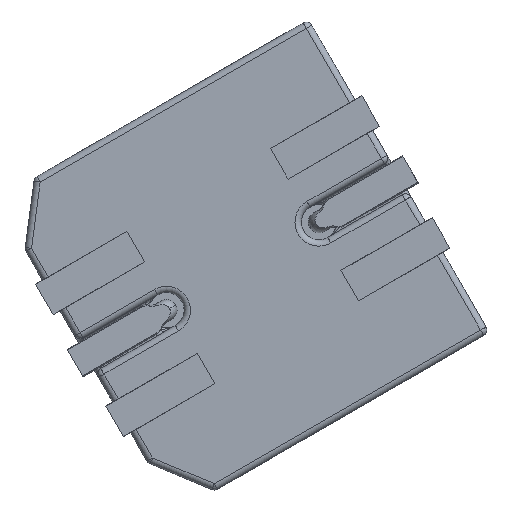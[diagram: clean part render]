
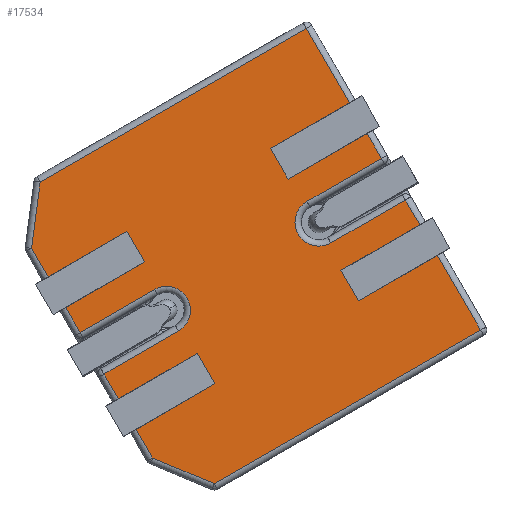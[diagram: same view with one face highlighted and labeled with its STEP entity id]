
A CAD part, left-side view. The second image highlights one B-rep face of the part: STEP entity #17534.
In plain terms, the highlighted planar face has unit normal (-1, 0, 0) as drawn and (0, -1, 0) by its records, which use the part's own axes.
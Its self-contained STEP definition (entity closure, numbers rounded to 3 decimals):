
#14708=DIRECTION('',(0.,0.,-1.));
#14709=VECTOR('',#14708,2.59);
#14710=CARTESIAN_POINT('',(1.5,0.,4.945));
#14711=LINE('',#14710,#14709);
#14712=DIRECTION('',(1.,0.,0.));
#14713=VECTOR('',#14712,1.);
#14714=CARTESIAN_POINT('',(1.5,0.,2.355));
#14715=LINE('',#14714,#14713);
#14716=DIRECTION('',(0.,0.,-1.));
#14717=VECTOR('',#14716,2.59);
#14718=CARTESIAN_POINT('',(2.5,0.,4.945));
#14719=LINE('',#14718,#14717);
#14720=DIRECTION('',(-1.,0.,0.));
#14721=VECTOR('',#14720,0.939);
#14722=CARTESIAN_POINT('',(3.439,0.,4.945));
#14723=LINE('',#14722,#14721);
#14724=DIRECTION('',(-0.794,0.,0.609));
#14725=VECTOR('',#14724,1.904);
#14726=CARTESIAN_POINT('',(4.95,0.,3.786));
#14727=LINE('',#14726,#14725);
#14728=DIRECTION('',(0.,0.,1.));
#14729=VECTOR('',#14728,8.731);
#14730=CARTESIAN_POINT('',(4.95,0.,-4.945));
#14731=LINE('',#14730,#14729);
#14732=DIRECTION('',(1.,0.,0.));
#14733=VECTOR('',#14732,2.45);
#14734=CARTESIAN_POINT('',(2.5,0.,-4.945));
#14735=LINE('',#14734,#14733);
#14736=DIRECTION('',(0.,0.,1.));
#14737=VECTOR('',#14736,2.59);
#14738=CARTESIAN_POINT('',(2.5,0.,-4.945));
#14739=LINE('',#14738,#14737);
#14740=DIRECTION('',(-1.,0.,0.));
#14741=VECTOR('',#14740,1.);
#14742=CARTESIAN_POINT('',(2.5,0.,-2.355));
#14743=LINE('',#14742,#14741);
#14744=DIRECTION('',(0.,0.,1.));
#14745=VECTOR('',#14744,2.59);
#14746=CARTESIAN_POINT('',(1.5,0.,-4.945));
#14747=LINE('',#14746,#14745);
#14748=DIRECTION('',(1.,0.,0.));
#14749=VECTOR('',#14748,0.82);
#14750=CARTESIAN_POINT('',(0.68,0.,-4.945));
#14751=LINE('',#14750,#14749);
#14752=DIRECTION('',(0.,0.,-1.));
#14753=VECTOR('',#14752,2.445);
#14754=CARTESIAN_POINT('',(0.68,0.,-2.5));
#14755=LINE('',#14754,#14753);
#14756=DIRECTION('',(0.,0.,1.));
#14757=VECTOR('',#14756,2.445);
#14758=CARTESIAN_POINT('',(-0.68,0.,-4.945));
#14759=LINE('',#14758,#14757);
#14760=DIRECTION('',(1.,0.,0.));
#14761=VECTOR('',#14760,0.82);
#14762=CARTESIAN_POINT('',(-1.5,0.,-4.945));
#14763=LINE('',#14762,#14761);
#14764=DIRECTION('',(0.,0.,1.));
#14765=VECTOR('',#14764,2.59);
#14766=CARTESIAN_POINT('',(-1.5,0.,-4.945));
#14767=LINE('',#14766,#14765);
#14768=DIRECTION('',(-1.,0.,0.));
#14769=VECTOR('',#14768,1.);
#14770=CARTESIAN_POINT('',(-1.5,0.,-2.355));
#14771=LINE('',#14770,#14769);
#14772=DIRECTION('',(0.,0.,1.));
#14773=VECTOR('',#14772,2.59);
#14774=CARTESIAN_POINT('',(-2.5,0.,-4.945));
#14775=LINE('',#14774,#14773);
#14776=DIRECTION('',(1.,0.,0.));
#14777=VECTOR('',#14776,2.45);
#14778=CARTESIAN_POINT('',(-4.95,0.,-4.945));
#14779=LINE('',#14778,#14777);
#14780=DIRECTION('',(0.,0.,1.));
#14781=VECTOR('',#14780,8.731);
#14782=CARTESIAN_POINT('',(-4.95,0.,-4.945));
#14783=LINE('',#14782,#14781);
#14784=DIRECTION('',(-0.794,0.,-0.609));
#14785=VECTOR('',#14784,1.904);
#14786=CARTESIAN_POINT('',(-3.439,0.,4.945));
#14787=LINE('',#14786,#14785);
#14788=DIRECTION('',(-1.,0.,0.));
#14789=VECTOR('',#14788,0.939);
#14790=CARTESIAN_POINT('',(-2.5,0.,4.945));
#14791=LINE('',#14790,#14789);
#14792=DIRECTION('',(0.,0.,-1.));
#14793=VECTOR('',#14792,2.59);
#14794=CARTESIAN_POINT('',(-2.5,0.,4.945));
#14795=LINE('',#14794,#14793);
#14796=DIRECTION('',(1.,0.,0.));
#14797=VECTOR('',#14796,1.);
#14798=CARTESIAN_POINT('',(-2.5,0.,2.355));
#14799=LINE('',#14798,#14797);
#14800=DIRECTION('',(0.,0.,-1.));
#14801=VECTOR('',#14800,2.59);
#14802=CARTESIAN_POINT('',(-1.5,0.,4.945));
#14803=LINE('',#14802,#14801);
#14804=DIRECTION('',(-1.,0.,0.));
#14805=VECTOR('',#14804,0.82);
#14806=CARTESIAN_POINT('',(-0.68,0.,4.945));
#14807=LINE('',#14806,#14805);
#14808=DIRECTION('',(0.,0.,1.));
#14809=VECTOR('',#14808,2.445);
#14810=CARTESIAN_POINT('',(-0.68,0.,2.5));
#14811=LINE('',#14810,#14809);
#14812=DIRECTION('',(0.,0.,-1.));
#14813=VECTOR('',#14812,2.445);
#14814=CARTESIAN_POINT('',(0.68,0.,4.945));
#14815=LINE('',#14814,#14813);
#14816=DIRECTION('',(-1.,0.,0.));
#14817=VECTOR('',#14816,0.82);
#14818=CARTESIAN_POINT('',(1.5,0.,4.945));
#14819=LINE('',#14818,#14817);
#16768=CARTESIAN_POINT('',(0.,0.,2.5));
#16769=DIRECTION('',(0.,1.,0.));
#16770=DIRECTION('',(1.,0.,0.));
#16771=AXIS2_PLACEMENT_3D('',#16768,#16769,#16770);
#16945=CARTESIAN_POINT('',(0.,0.,-2.5));
#16946=DIRECTION('',(0.,1.,0.));
#16947=DIRECTION('',(-1.,0.,0.));
#16948=AXIS2_PLACEMENT_3D('',#16945,#16946,#16947);
#17119=CARTESIAN_POINT('',(4.95,0.,-4.945));
#17120=CARTESIAN_POINT('',(4.95,0.,3.786));
#17121=VERTEX_POINT('',#17119);
#17122=VERTEX_POINT('',#17120);
#17123=CARTESIAN_POINT('',(-4.95,0.,3.786));
#17125=VERTEX_POINT('',#17123);
#17128=CARTESIAN_POINT('',(-3.439,0.,4.945));
#17130=VERTEX_POINT('',#17128);
#17189=CARTESIAN_POINT('',(-0.68,0.,-2.5));
#17190=CARTESIAN_POINT('',(0.68,0.,-2.5));
#17191=VERTEX_POINT('',#17189);
#17192=VERTEX_POINT('',#17190);
#17199=CARTESIAN_POINT('',(0.68,0.,2.5));
#17200=VERTEX_POINT('',#17199);
#17201=CARTESIAN_POINT('',(-0.68,0.,2.5));
#17202=VERTEX_POINT('',#17201);
#17223=CARTESIAN_POINT('',(3.439,0.,4.945));
#17224=VERTEX_POINT('',#17223);
#17251=CARTESIAN_POINT('',(-0.68,0.,-4.945));
#17252=VERTEX_POINT('',#17251);
#17253=CARTESIAN_POINT('',(0.68,0.,-4.945));
#17254=VERTEX_POINT('',#17253);
#17257=CARTESIAN_POINT('',(0.68,0.,4.945));
#17258=VERTEX_POINT('',#17257);
#17259=CARTESIAN_POINT('',(-0.68,0.,4.945));
#17260=VERTEX_POINT('',#17259);
#17287=CARTESIAN_POINT('',(-4.95,0.,-4.945));
#17288=VERTEX_POINT('',#17287);
#17435=CARTESIAN_POINT('',(-2.5,0.,4.945));
#17436=VERTEX_POINT('',#17435);
#17437=CARTESIAN_POINT('',(-1.5,0.,4.945));
#17438=VERTEX_POINT('',#17437);
#17439=CARTESIAN_POINT('',(-1.5,0.,-4.945));
#17440=VERTEX_POINT('',#17439);
#17441=CARTESIAN_POINT('',(-2.5,0.,-4.945));
#17442=VERTEX_POINT('',#17441);
#17443=CARTESIAN_POINT('',(2.5,0.,-4.945));
#17444=VERTEX_POINT('',#17443);
#17445=CARTESIAN_POINT('',(1.5,0.,-4.945));
#17446=VERTEX_POINT('',#17445);
#17447=CARTESIAN_POINT('',(1.5,0.,4.945));
#17448=VERTEX_POINT('',#17447);
#17449=CARTESIAN_POINT('',(2.5,0.,4.945));
#17450=VERTEX_POINT('',#17449);
#17451=CARTESIAN_POINT('',(1.5,0.,2.355));
#17452=VERTEX_POINT('',#17451);
#17453=CARTESIAN_POINT('',(2.5,0.,2.355));
#17454=VERTEX_POINT('',#17453);
#17455=CARTESIAN_POINT('',(-2.5,0.,2.355));
#17456=VERTEX_POINT('',#17455);
#17457=CARTESIAN_POINT('',(-1.5,0.,2.355));
#17458=VERTEX_POINT('',#17457);
#17459=CARTESIAN_POINT('',(2.5,0.,-2.355));
#17460=VERTEX_POINT('',#17459);
#17461=CARTESIAN_POINT('',(1.5,0.,-2.355));
#17462=VERTEX_POINT('',#17461);
#17463=CARTESIAN_POINT('',(-1.5,0.,-2.355));
#17464=VERTEX_POINT('',#17463);
#17465=CARTESIAN_POINT('',(-2.5,0.,-2.355));
#17466=VERTEX_POINT('',#17465);
#17467=CARTESIAN_POINT('',(0.,0.,0.));
#17468=DIRECTION('',(0.,1.,0.));
#17469=DIRECTION('',(0.,0.,1.));
#17470=AXIS2_PLACEMENT_3D('',#17467,#17468,#17469);
#17471=PLANE('',#17470);
#17473=ORIENTED_EDGE('',*,*,#17472,.T.);
#17475=ORIENTED_EDGE('',*,*,#17474,.T.);
#17477=ORIENTED_EDGE('',*,*,#17476,.F.);
#17479=ORIENTED_EDGE('',*,*,#17478,.F.);
#17481=ORIENTED_EDGE('',*,*,#17480,.F.);
#17483=ORIENTED_EDGE('',*,*,#17482,.F.);
#17485=ORIENTED_EDGE('',*,*,#17484,.F.);
#17487=ORIENTED_EDGE('',*,*,#17486,.T.);
#17489=ORIENTED_EDGE('',*,*,#17488,.T.);
#17491=ORIENTED_EDGE('',*,*,#17490,.F.);
#17493=ORIENTED_EDGE('',*,*,#17492,.F.);
#17495=ORIENTED_EDGE('',*,*,#17494,.F.);
#17497=ORIENTED_EDGE('',*,*,#17496,.F.);
#17499=ORIENTED_EDGE('',*,*,#17498,.F.);
#17501=ORIENTED_EDGE('',*,*,#17500,.F.);
#17503=ORIENTED_EDGE('',*,*,#17502,.T.);
#17505=ORIENTED_EDGE('',*,*,#17504,.T.);
#17507=ORIENTED_EDGE('',*,*,#17506,.F.);
#17509=ORIENTED_EDGE('',*,*,#17508,.F.);
#17511=ORIENTED_EDGE('',*,*,#17510,.T.);
#17513=ORIENTED_EDGE('',*,*,#17512,.F.);
#17515=ORIENTED_EDGE('',*,*,#17514,.F.);
#17517=ORIENTED_EDGE('',*,*,#17516,.T.);
#17519=ORIENTED_EDGE('',*,*,#17518,.T.);
#17521=ORIENTED_EDGE('',*,*,#17520,.F.);
#17523=ORIENTED_EDGE('',*,*,#17522,.F.);
#17525=ORIENTED_EDGE('',*,*,#17524,.F.);
#17527=ORIENTED_EDGE('',*,*,#17526,.F.);
#17529=ORIENTED_EDGE('',*,*,#17528,.F.);
#17531=ORIENTED_EDGE('',*,*,#17530,.F.);
#17532=EDGE_LOOP('',(#17473,#17475,#17477,#17479,#17481,#17483,#17485,#17487,
#17489,#17491,#17493,#17495,#17497,#17499,#17501,#17503,#17505,#17507,#17509,
#17511,#17513,#17515,#17517,#17519,#17521,#17523,#17525,#17527,#17529,#17531));
#17533=FACE_OUTER_BOUND('',#17532,.F.);
#17534=ADVANCED_FACE('',(#17533),#17471,.F.);
#16772=CIRCLE('',#16771,0.68);
#16949=CIRCLE('',#16948,0.68);
#17472=EDGE_CURVE('',#17448,#17452,#14711,.T.);
#17474=EDGE_CURVE('',#17452,#17454,#14715,.T.);
#17476=EDGE_CURVE('',#17450,#17454,#14719,.T.);
#17478=EDGE_CURVE('',#17224,#17450,#14723,.T.);
#17480=EDGE_CURVE('',#17122,#17224,#14727,.T.);
#17482=EDGE_CURVE('',#17121,#17122,#14731,.T.);
#17484=EDGE_CURVE('',#17444,#17121,#14735,.T.);
#17486=EDGE_CURVE('',#17444,#17460,#14739,.T.);
#17488=EDGE_CURVE('',#17460,#17462,#14743,.T.);
#17490=EDGE_CURVE('',#17446,#17462,#14747,.T.);
#17492=EDGE_CURVE('',#17254,#17446,#14751,.T.);
#17494=EDGE_CURVE('',#17192,#17254,#14755,.T.);
#17496=EDGE_CURVE('',#17191,#17192,#16949,.T.);
#17498=EDGE_CURVE('',#17252,#17191,#14759,.T.);
#17500=EDGE_CURVE('',#17440,#17252,#14763,.T.);
#17502=EDGE_CURVE('',#17440,#17464,#14767,.T.);
#17504=EDGE_CURVE('',#17464,#17466,#14771,.T.);
#17506=EDGE_CURVE('',#17442,#17466,#14775,.T.);
#17508=EDGE_CURVE('',#17288,#17442,#14779,.T.);
#17510=EDGE_CURVE('',#17288,#17125,#14783,.T.);
#17512=EDGE_CURVE('',#17130,#17125,#14787,.T.);
#17514=EDGE_CURVE('',#17436,#17130,#14791,.T.);
#17516=EDGE_CURVE('',#17436,#17456,#14795,.T.);
#17518=EDGE_CURVE('',#17456,#17458,#14799,.T.);
#17520=EDGE_CURVE('',#17438,#17458,#14803,.T.);
#17522=EDGE_CURVE('',#17260,#17438,#14807,.T.);
#17524=EDGE_CURVE('',#17202,#17260,#14811,.T.);
#17526=EDGE_CURVE('',#17200,#17202,#16772,.T.);
#17528=EDGE_CURVE('',#17258,#17200,#14815,.T.);
#17530=EDGE_CURVE('',#17448,#17258,#14819,.T.);
